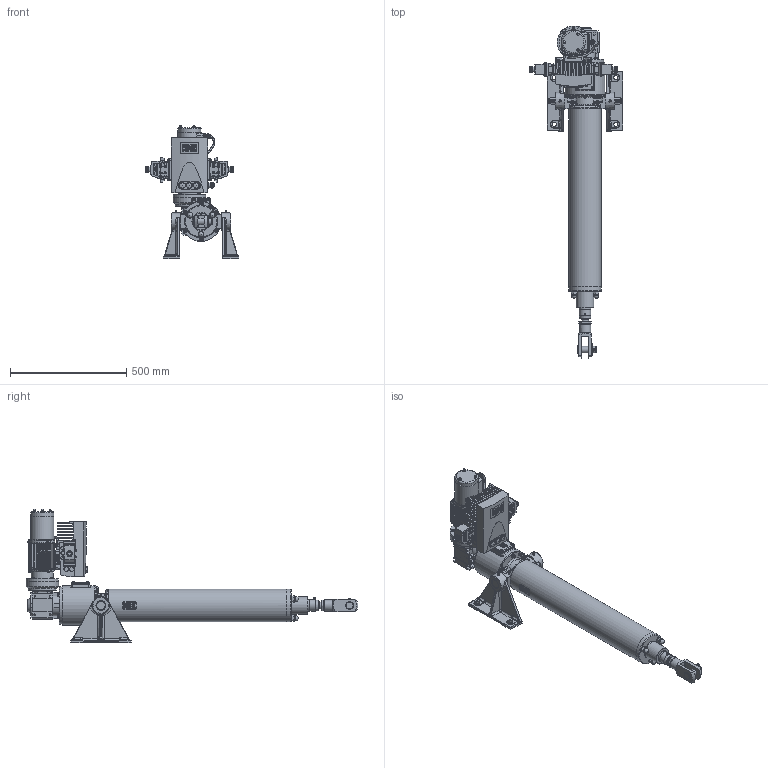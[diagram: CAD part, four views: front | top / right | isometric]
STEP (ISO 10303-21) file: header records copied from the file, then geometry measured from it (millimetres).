
FILE_DESCRIPTION(/* description */ ('Unknown'),/* implementation_level */ '2;1');
FILE_NAME(/* name */ 'T1T6-RM-0600-160-244-6',/* time_stamp */ '2025-07-21T10:27:29+02:00',/* author */ ('Unknown'),/* organization */ ('Unknown'),/* preprocessor_version */ 'ST-DEVELOPER v19.4',/* originating_system */ 'Solid Edge',/* authorisation */ 'Unknown');
FILE_SCHEMA (('AUTOMOTIVE_DESIGN {1 0 10303 214 3 1 1}'));
Length unit declared in the file: millimetre
Products named in the file (19): 160-244-6; 03.01-06_oohne Anschlagkappe; 02.14-06-0600; 02.01-06_kpl; 01.15-06-0600_ohne Anschlagkappe; 01.74-06_ohne Anschlagkappe; SK1SI50-IEC71C140; 01.01-06_kpl_Gabelkopf; FU-BG-1; 03.65-06_kpl; 04.01-05-7-140; 10.02-04-08; AM6-100-183-3; 63-B5_ohne; Adapter-FU-BG-1-2; Gehaeuse_A2; 160-244-6_1; 4fach-LED; Steckverbinder_kpl
Assembly tree (19 placements, depth 2):
  160-244-6
    03.01-06_oohne Anschlagkappe
    02.14-06-0600
    02.01-06_kpl
    01.15-06-0600_ohne Anschlagkappe
    01.74-06_ohne Anschlagkappe
    SK1SI50-IEC71C140
    01.01-06_kpl_Gabelkopf
    FU-BG-1
    03.65-06_kpl
    04.01-05-7-140
    10.02-04-08
    AM6-100-183-3
    63-B5_ohne
    Adapter-FU-BG-1-2
    Gehaeuse_A2
    160-244-6_1
    4fach-LED
    Steckverbinder_kpl  x2
Bounding box: 402.95 x 1428 x 573.5 mm (x, y, z)
Volume: 27383598.6 mm3; surface area: 1987669 mm2
Topology: 24 solids, 36 shells, 4905 faces, 12861 edges, 8236 vertices
Faces by surface type: plane 2754, cylinder 1383, cone 305, torus 208, bspline 208, sphere 47
Full cylindrical faces by diameter (mm): 1 x47, 2 x1, 3 x4, 3.141 x3, 4 x14, 4.8 x3, 4.917 x1, 5 x24, 5.5 x1, 6 x1, 6.4 x2, 6.647 x1, 7 x15, 7.5 x3, 7.6 x8, 8 x13, 8.15 x1, 8.2 x1, 8.4 x6, 8.566 x1, 9.1 x3, 10 x3, 10.16 x1, 11.6 x1, 12 x2, 12.5 x2, 12.8 x1, 13 x2, 13.602 x1, 14.2 x3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
Entity records: 174218 total; most frequent: CARTESIAN_POINT 34255, ORIENTED_EDGE 22590, DIRECTION 22281, EDGE_CURVE 11295, AXIS2_PLACEMENT_3D 8123, VERTEX_POINT 7438, LINE 6035, VECTOR 6035
